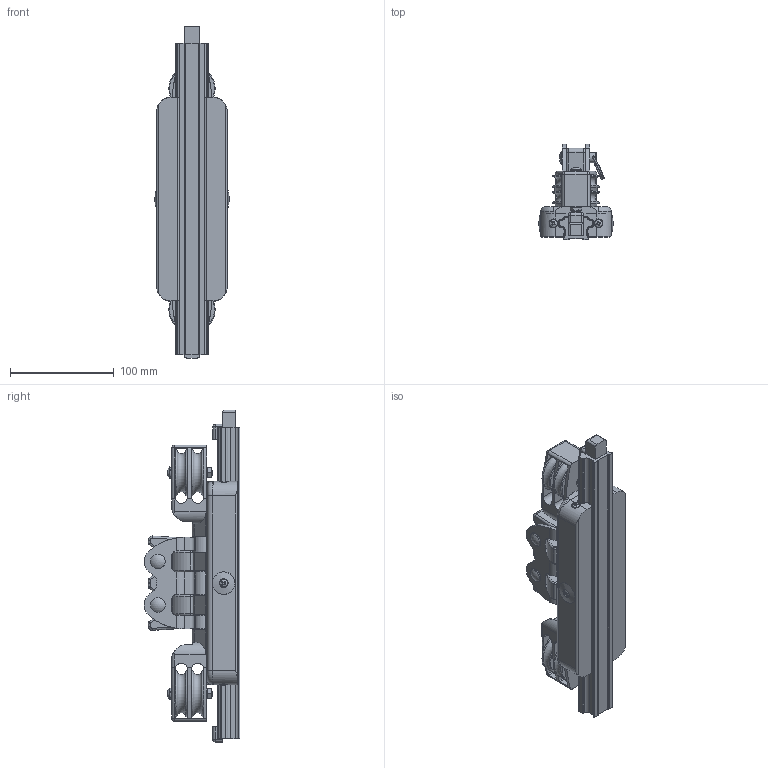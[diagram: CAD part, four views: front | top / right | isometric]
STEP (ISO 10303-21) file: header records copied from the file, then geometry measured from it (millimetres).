
FILE_DESCRIPTION(/* description */ (''),/* implementation_level */ '2;1');
FILE_NAME(/* name */ 'D:\Utenti\lucade\Desktop\4199.stp',/* time_stamp */ '2020-08-17T11:03:12+02:00',/* author */ ('lucade'),/* organization */ (''),/* preprocessor_version */ 'ST-DEVELOPER v18.1',/* originating_system */ 'Autodesk Inventor 2021',/* authorisation */ '');
FILE_SCHEMA (('AUTOMOTIVE_DESIGN { 1 0 10303 214 3 1 1 }'));
Products named in the file (1): 4199
Bounding box: 71.95 x 92.07 x 319.8 mm (x, y, z)
Volume: 702812.5 mm3; surface area: 137799.4 mm2
Topology: 1 solids, 10 shells, 1292 faces, 3583 edges, 2288 vertices
Faces by surface type: plane 503, cylinder 441, torus 146, bspline 130, cone 52, sphere 20
Full cylindrical faces by diameter (mm): 2.5 x2, 3.5 x2, 3.6 x2, 6 x10, 6.2 x8, 6.4 x2, 6.8 x2, 8.2 x1, 8.5 x6, 10 x4, 10.2 x4, 10.5 x12, 11.7 x6, 18.2 x3, 28 x6
Entity records: 50863 total; most frequent: CARTESIAN_POINT 18444, ORIENTED_EDGE 7120, DIRECTION 6658, EDGE_CURVE 3560, AXIS2_PLACEMENT_3D 2622, VERTEX_POINT 2288, LINE 1414, VECTOR 1414
